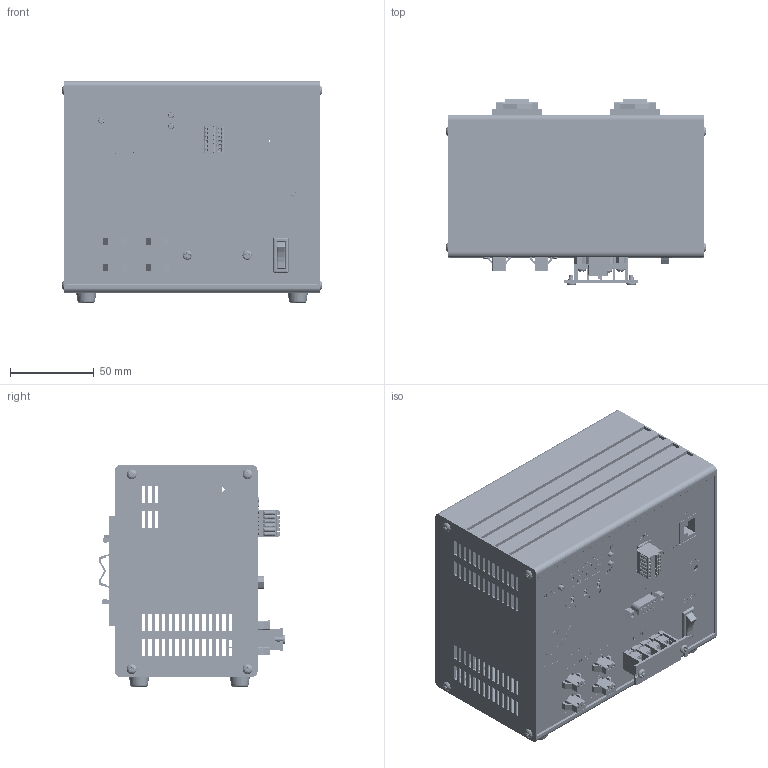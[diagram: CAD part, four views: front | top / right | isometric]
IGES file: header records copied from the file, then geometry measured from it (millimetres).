
Start section: 3D InterOp IGES (v. 2019 1.0.2), Spatial Corp. Copyright (c) 1999-2017.
Global section: file name: VCT-2460-4ES_3D_P1013A-A00100.iges; native system: Spatial Corp.; preprocessor: 3D InterOp ACIS/IGES; author: Noname; organization: Noname; date: 20231212.124137; units: millimetre
Bounding box: 154.98 x 111.29 x 132 mm (x, y, z)
Surface area: 248490.9 mm2 (no closed solid volume)
Topology: 0 solids, 0 shells, 7628 faces, 41668 edges, 42201 vertices
Faces by surface type: extrusion 5066, revolution 1780, bspline 782
